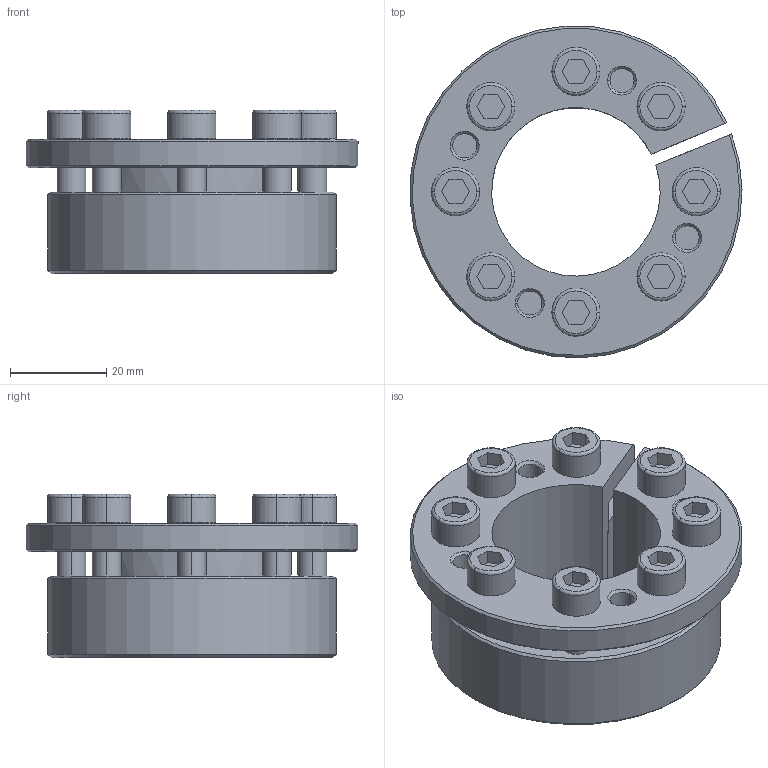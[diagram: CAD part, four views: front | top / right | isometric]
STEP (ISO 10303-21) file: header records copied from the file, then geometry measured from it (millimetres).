
FILE_DESCRIPTION((''),'2;1');
FILE_NAME('398-011-0035','2024-02-18T',('Brieden'),('Brieden'),'PRO/ENGINEER BY PARAMETRIC TECHNOLOGY CORPORATION, 2010160','PRO/ENGINEER BY PARAMETRIC TECHNOLOGY CORPORATION, 2010160','');
FILE_SCHEMA(('AUTOMOTIVE_DESIGN { 1 0 10303 214 1 1 1 1 }'));
Length unit declared in the file: millimetre
Products named in the file (1): 398-011-0035
Bounding box: 68.96 x 68.91 x 34 mm (x, y, z)
Volume: 52212.4 mm3; surface area: 26301.7 mm2
Topology: 2 solids, 2 shells, 218 faces, 498 edges, 316 vertices
Faces by surface type: plane 89, cylinder 75, cone 38, torus 16
Entity records: 7982 total; most frequent: DIRECTION 1146, CARTESIAN_POINT 1092, ORIENTED_EDGE 996, PRESENTATION_STYLE_ASSIGNMENT 517, STYLED_ITEM 500, CURVE_STYLE 498, EDGE_CURVE 498, AXIS2_PLACEMENT_3D 441
